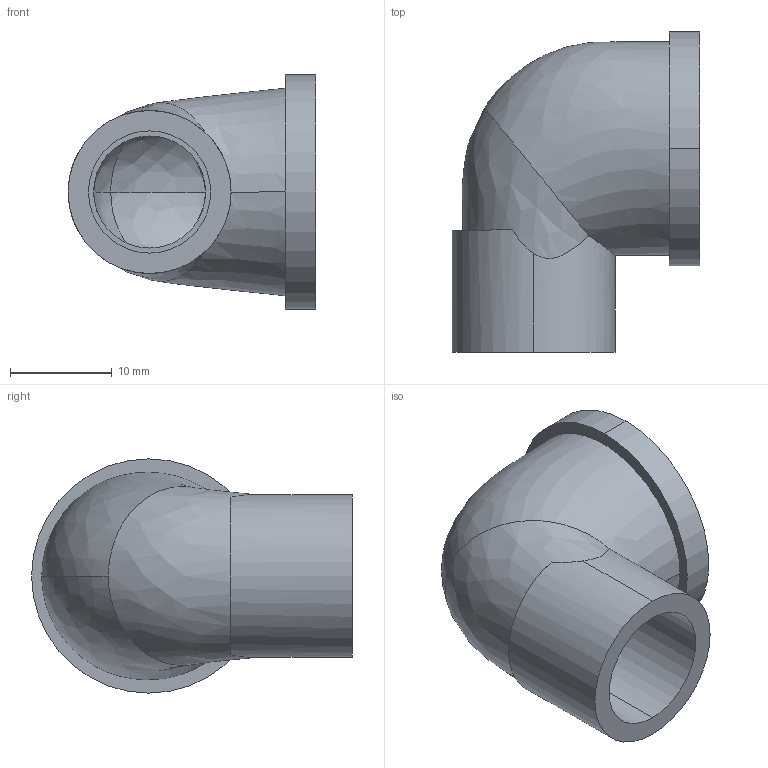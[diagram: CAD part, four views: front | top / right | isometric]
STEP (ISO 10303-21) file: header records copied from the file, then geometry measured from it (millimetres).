
FILE_DESCRIPTION (( 'STEP AP203' ), '1' );
FILE_NAME ('12x38.STEP', '2024-02-26T01:15:52', ( '' ), ( '' ), 'SwSTEP 2.0', 'SolidWorks 2018', '' );
FILE_SCHEMA (( 'CONFIG_CONTROL_DESIGN' ));
Length unit declared in the file: millimetre
Products named in the file (1): 12x38
Bounding box: 24.32 x 31.5 x 23 mm (x, y, z)
Volume: 3622.5 mm3; surface area: 4087.3 mm2
Topology: 1 solids, 1 shells, 40 faces, 106 edges, 70 vertices
Faces by surface type: cylinder 20, bspline 10, plane 7, cone 3
Entity records: 4014 total; most frequent: CARTESIAN_POINT 3086, ORIENTED_EDGE 212, DIRECTION 128, EDGE_CURVE 106, VERTEX_POINT 70, AXIS2_PLACEMENT_3D 53, B_SPLINE_CURVE_WITH_KNOTS 46, EDGE_LOOP 44
